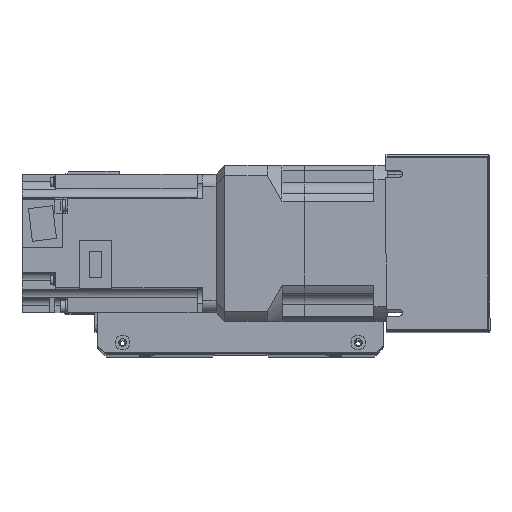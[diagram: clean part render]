
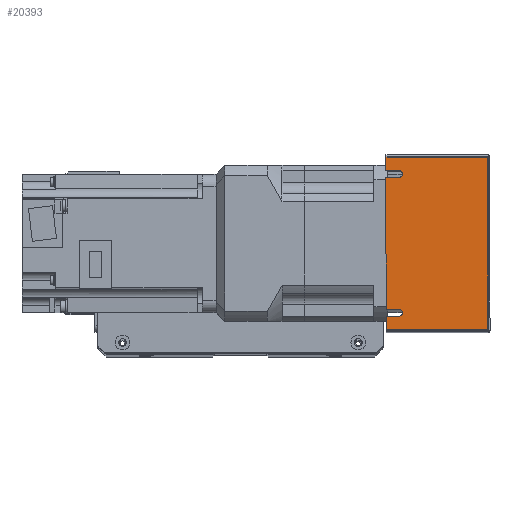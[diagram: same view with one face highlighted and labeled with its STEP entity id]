
A CAD part, top view. The second image highlights one B-rep face of the part: STEP entity #20393.
In plain terms, the highlighted planar face has unit normal (0, 0, 1) as drawn and (-1, 0, 0) by its records, which use the part's own axes.
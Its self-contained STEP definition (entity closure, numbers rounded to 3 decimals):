
#536=PLANE('',#22169);
#1624=LINE('',#32302,#3284);
#1630=LINE('',#32316,#3290);
#1642=LINE('',#32343,#3302);
#1652=LINE('',#32365,#3312);
#1660=LINE('',#32384,#3320);
#1661=LINE('',#32387,#3321);
#1662=LINE('',#32389,#3322);
#1663=LINE('',#32391,#3323);
#1664=LINE('',#32393,#3324);
#1665=LINE('',#32394,#3325);
#3284=VECTOR('',#26247,10.);
#3290=VECTOR('',#26257,10.);
#3302=VECTOR('',#26275,10.);
#3312=VECTOR('',#26289,10.);
#3320=VECTOR('',#26311,10.);
#3321=VECTOR('',#26314,10.);
#3322=VECTOR('',#26315,10.);
#3323=VECTOR('',#26316,10.);
#3324=VECTOR('',#26317,10.);
#3325=VECTOR('',#26318,10.);
#5266=FACE_OUTER_BOUND('',#6654,.T.);
#6654=EDGE_LOOP('',(#15866,#15867,#15868,#15869,#15870,#15871,#15872,#15873,
#15874,#15875,#15876,#15877));
#8060=CIRCLE('',#22165,2.);
#8063=CIRCLE('',#22170,2.);
#9465=VERTEX_POINT('',#32299);
#9466=VERTEX_POINT('',#32301);
#9471=VERTEX_POINT('',#32314);
#9472=VERTEX_POINT('',#32315);
#9483=VERTEX_POINT('',#32341);
#9484=VERTEX_POINT('',#32342);
#9493=VERTEX_POINT('',#32362);
#9494=VERTEX_POINT('',#32364);
#9499=VERTEX_POINT('',#32386);
#9500=VERTEX_POINT('',#32388);
#9501=VERTEX_POINT('',#32390);
#9502=VERTEX_POINT('',#32392);
#11785=EDGE_CURVE('',#9465,#9466,#1624,.T.);
#11791=EDGE_CURVE('',#9471,#9472,#1630,.T.);
#11803=EDGE_CURVE('',#9483,#9484,#1642,.T.);
#11813=EDGE_CURVE('',#9493,#9494,#1652,.T.);
#11816=EDGE_CURVE('',#9472,#9465,#8060,.T.);
#11825=EDGE_CURVE('',#9471,#9494,#1660,.T.);
#11826=EDGE_CURVE('',#9484,#9493,#8063,.T.);
#11827=EDGE_CURVE('',#9483,#9499,#1661,.T.);
#11828=EDGE_CURVE('',#9499,#9500,#1662,.T.);
#11829=EDGE_CURVE('',#9500,#9501,#1663,.T.);
#11830=EDGE_CURVE('',#9501,#9502,#1664,.T.);
#11831=EDGE_CURVE('',#9502,#9466,#1665,.T.);
#15866=ORIENTED_EDGE('',*,*,#11785,.F.);
#15867=ORIENTED_EDGE('',*,*,#11816,.F.);
#15868=ORIENTED_EDGE('',*,*,#11791,.F.);
#15869=ORIENTED_EDGE('',*,*,#11825,.T.);
#15870=ORIENTED_EDGE('',*,*,#11813,.F.);
#15871=ORIENTED_EDGE('',*,*,#11826,.F.);
#15872=ORIENTED_EDGE('',*,*,#11803,.F.);
#15873=ORIENTED_EDGE('',*,*,#11827,.T.);
#15874=ORIENTED_EDGE('',*,*,#11828,.T.);
#15875=ORIENTED_EDGE('',*,*,#11829,.T.);
#15876=ORIENTED_EDGE('',*,*,#11830,.T.);
#15877=ORIENTED_EDGE('',*,*,#11831,.T.);
#20393=ADVANCED_FACE('',(#5266),#536,.F.);
#22165=AXIS2_PLACEMENT_3D('',#32369,#26295,#26296);
#22169=AXIS2_PLACEMENT_3D('',#32383,#26309,#26310);
#22170=AXIS2_PLACEMENT_3D('',#32385,#26312,#26313);
#26247=DIRECTION('',(0.,0.,-1.));
#26257=DIRECTION('',(0.,0.,1.));
#26275=DIRECTION('',(0.,0.,1.));
#26289=DIRECTION('',(0.,0.,-1.));
#26295=DIRECTION('center_axis',(-1.,0.,0.));
#26296=DIRECTION('ref_axis',(0.,0.,1.));
#26309=DIRECTION('center_axis',(1.,0.,0.));
#26310=DIRECTION('ref_axis',(0.,-1.,0.));
#26311=DIRECTION('',(0.,-1.,0.));
#26312=DIRECTION('center_axis',(-1.,0.,0.));
#26313=DIRECTION('ref_axis',(0.,0.,1.));
#26314=DIRECTION('',(0.,-1.,0.));
#26315=DIRECTION('',(0.,0.,1.));
#26316=DIRECTION('',(0.,1.,0.));
#26317=DIRECTION('',(0.,0.,-1.));
#26318=DIRECTION('',(0.,-1.,0.));
#32299=CARTESIAN_POINT('',(-120.5,42.,-22.5));
#32301=CARTESIAN_POINT('',(-120.5,42.,-30.));
#32302=CARTESIAN_POINT('',(-120.5,42.,-16.304));
#32314=CARTESIAN_POINT('',(-120.5,38.,-30.));
#32315=CARTESIAN_POINT('',(-120.5,38.,-22.5));
#32316=CARTESIAN_POINT('',(-120.5,38.,-11.25));
#32341=CARTESIAN_POINT('',(-120.5,-42.,-30.));
#32342=CARTESIAN_POINT('',(-120.5,-42.,-22.5));
#32343=CARTESIAN_POINT('',(-120.5,-42.,-11.25));
#32362=CARTESIAN_POINT('',(-120.5,-38.,-22.5));
#32364=CARTESIAN_POINT('',(-120.5,-38.,-30.));
#32365=CARTESIAN_POINT('',(-120.5,-38.,-16.169));
#32369=CARTESIAN_POINT('Origin',(-120.5,40.,-22.5));
#32383=CARTESIAN_POINT('Origin',(-120.5,51.,0.));
#32384=CARTESIAN_POINT('',(-120.5,-51.,-30.));
#32385=CARTESIAN_POINT('Origin',(-120.5,-40.,-22.5));
#32386=CARTESIAN_POINT('',(-120.5,-50.,-30.));
#32387=CARTESIAN_POINT('',(-120.5,-51.,-30.));
#32388=CARTESIAN_POINT('',(-120.5,-50.,29.));
#32389=CARTESIAN_POINT('',(-120.5,-50.,0.));
#32390=CARTESIAN_POINT('',(-120.5,50.,29.));
#32391=CARTESIAN_POINT('',(-120.5,25.5,29.));
#32392=CARTESIAN_POINT('',(-120.5,50.,-30.));
#32393=CARTESIAN_POINT('',(-120.5,50.,0.));
#32394=CARTESIAN_POINT('',(-120.5,-51.,-30.));
